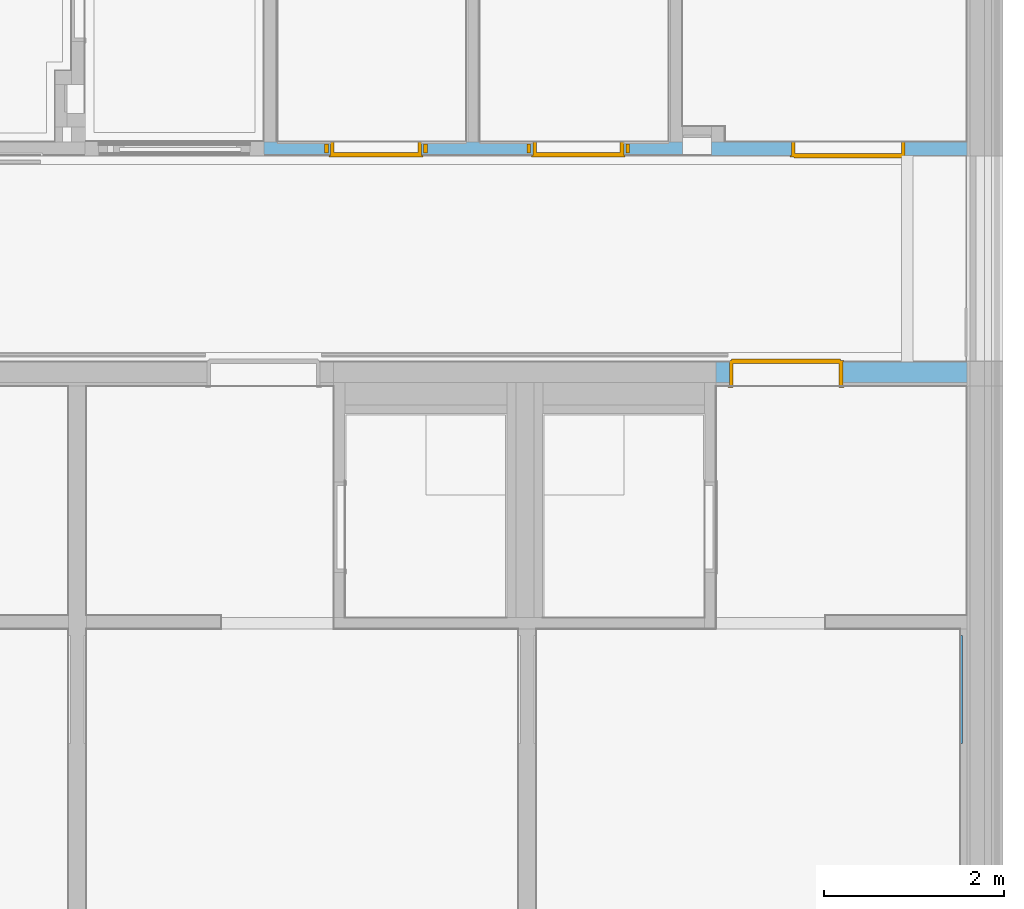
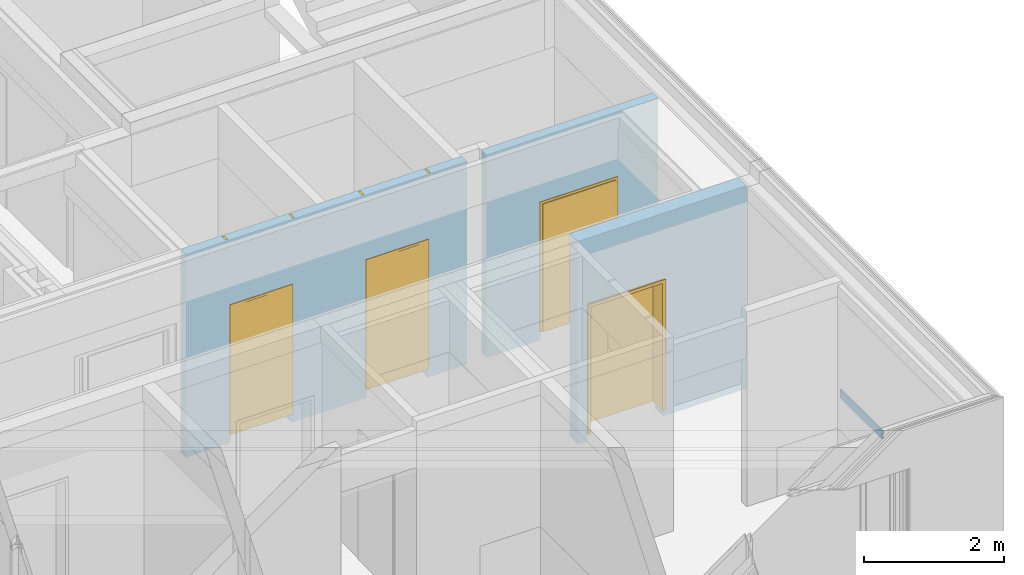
# One storey, part 133 of 222: 4 doors, 1 wall, 4 openings, plus 3 elements that do not belong to this part.
"""IFC4 building model written with IfcOpenShell, lengths in metres."""

from ifc_helpers import new_model, entity, si_unit, converted_unit, derived_unit, frame, frame_2d, origin, origin_with_axes, place, context, subcontext, project, spatial, polyline, rectangle, outline, extrude, faceted_brep, source, transform, mapped, material, type_object, element, fill, save


model = new_model("IFC4")

# Units and contexts
model_context = context("Model", 3, precision=1e-05, world=origin())
body_context = subcontext(model_context, "Body", "Model", "MODEL_VIEW")
ifc_project = project(units=[si_unit("LENGTHUNIT", "METRE"), si_unit("AREAUNIT", "SQUARE_METRE"), si_unit("VOLUMEUNIT", "CUBIC_METRE"), si_unit("MASSUNIT", "GRAM", prefix="KILO"), converted_unit("PLANEANGLEUNIT", "DEGREE", entity("IfcPlaneAngleMeasure", 0.0174532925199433), si_unit("PLANEANGLEUNIT", "RADIAN"), dimensions=[0, 0, 0, 0, 0, 0, 0]), derived_unit("THERMALTRANSMITTANCEUNIT", [(si_unit("POWERUNIT", "WATT"), 1), (si_unit("THERMODYNAMICTEMPERATUREUNIT", "KELVIN"), -1), (si_unit("LENGTHUNIT", "METRE"), -2)]), derived_unit("VOLUMETRICFLOWRATEUNIT", [(si_unit("LENGTHUNIT", "METRE"), 3), (converted_unit("TIMEUNIT", "hour", entity("IfcTimeMeasure", 3600.0), si_unit("TIMEUNIT", "SECOND"), dimensions=[0, 0, 1, 0, 0, 0, 0]), -1), (si_unit("LENGTHUNIT", "METRE"), -1)])], contexts=[model_context])

# Site, building, storey
site_placement = place(None, origin())
site = spatial("IfcSite", under=ifc_project, at=site_placement, Name="Psychiatrie Neubau Wunstorf", CompositionType="ELEMENT")
building_placement = place(site_placement, origin())
building = spatial("IfcBuilding", under=site, at=building_placement, Name="Neubau H2 Stationsgebäude", CompositionType="ELEMENT")
storey_placement = place(building_placement, frame((0.0, 0.0, 3.6)))
storey = spatial("IfcBuildingStorey", under=building, at=storey_placement, Name="H2 Ebene +1", CompositionType="ELEMENT", Elevation=3.6)

# Wall, openings, doors
ifc_material_1 = material(Name="WI-LB")
wall_1_placement = place(storey_placement, frame((98.075, 7.6249998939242, 0.0), z_axis=(0.0, 0.0, 1.0), x_axis=(1.0, -1.95590258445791e-16, 0.0)))
wall_1 = element("IfcWall", 1, at=wall_1_placement, inside=storey, material=ifc_material_1, context=body_context, shape_type="SweptSolid", body=[
    extrude(rectangle(XDim=4.65, YDim=0.15, at=frame_2d((2.325, 0.075), x_axis=(1.0, 0.0))), origin_with_axes(), (0.0, 0.0, 1.0), 3.55),
])
opening_1_placement = place(wall_1_placement, frame((1.75, 0.15, 0.0), z_axis=(0.0, -1.0, 0.0), x_axis=(0.0, 0.0, 1.0)))
opening_1 = element("IfcOpeningElement", 2, at=opening_1_placement, cuts=wall_1, Name="Türöffnung", ObjectType="Opening", context=body_context, shape_type="SweptSolid", body=[
    extrude(outline(polyline([(2.41, 1.01), (2.41, 0.0), (0.0, 0.0), (0.0, 1.01), (2.41, 1.01)])), origin_with_axes(), (0.0, 0.0, 1.0), 0.15),
])
opening_2_placement = place(wall_1_placement, frame((4.0, 0.150000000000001, 0.0), z_axis=(0.0, -1.0, 0.0), x_axis=(0.0, 0.0, 1.0)))
opening_2 = element("IfcOpeningElement", 3, at=opening_2_placement, cuts=wall_1, Name="Türöffnung", ObjectType="Opening", context=body_context, shape_type="SweptSolid", body=[
    extrude(outline(polyline([(2.41, 1.01), (2.41, 0.0), (0.0, 0.0), (0.0, 1.01), (2.41, 1.01)])), origin_with_axes(), (0.0, 0.0, 1.0), 0.15),
])
ifc_material_2 = material(Name="TI-1F-UZ-ZK")
door_type_1 = type_object("IfcDoorType", Name="SMT", OperationType="SINGLE_SWING_RIGHT", ParameterTakesPrecedence=False, PredefinedType="DOOR")
shared_shape_1 = source(origin_with_axes(), body_context, "Body", "Brep", [
    faceted_brep([(1.07499999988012, 0.025, 0.0), (1.07499999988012, 0.125, 0.0), (1.0349999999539, 0.125, 0.0), (1.0349999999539, 0.025, 0.0), (1.07499999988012, 0.125, 3.55), (1.07499999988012, 0.025, 3.55), (1.0349999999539, 0.025, 3.55), (1.0349999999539, 0.125, 3.55)], [[[0, 1, 2, 3]], [[4, 5, 6, 7]], [[1, 0, 5, 4]], [[2, 1, 4, 7]], [[3, 2, 7, 6]], [[0, 3, 6, 5]]], orient=[[False], [False], [False], [False], [False], [False]]),
    faceted_brep([(-0.0249999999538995, 0.025, 0.0), (-0.0249999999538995, 0.125, 0.0), (-0.0649999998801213, 0.125, 0.0), (-0.0649999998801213, 0.025, 0.0), (-0.0249999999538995, 0.125, 3.55), (-0.0249999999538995, 0.025, 3.55), (-0.0649999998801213, 0.025, 3.55), (-0.0649999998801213, 0.125, 3.55)], [[[0, 1, 2, 3]], [[4, 5, 6, 7]], [[1, 0, 5, 4]], [[2, 1, 4, 7]], [[3, 2, 7, 6]], [[0, 3, 6, 5]]], orient=[[False], [False], [False], [False], [False], [False]]),
    faceted_brep([(1.0349999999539, 0.025, 2.435), (1.0349999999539, 0.125, 2.435), (-0.0249999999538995, 0.125, 2.435), (-0.0249999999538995, 0.025, 2.435), (1.0349999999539, 0.125, 2.475), (1.0349999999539, 0.025, 2.475), (-0.0249999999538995, 0.025, 2.475), (-0.0249999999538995, 0.125, 2.475)], [[[0, 1, 2, 3]], [[4, 5, 6, 7]], [[1, 0, 5, 4]], [[2, 1, 4, 7]], [[3, 2, 7, 6]], [[0, 3, 6, 5]]], orient=[[False], [False], [False], [False], [False], [False]]),
])
shared_shape_2 = source(origin_with_axes(), body_context, "Body", "Brep", [
    faceted_brep([(0.0, -0.015, 2.41), (0.04, -0.015, 2.41), (0.04, -0.015, 0.15), (0.0, -0.015, 0.15), (0.0, 0.165, 0.15), (0.04, 0.165, 0.15), (0.04, 0.165, 2.41), (0.0, 0.165, 2.41)], [[[0, 1, 2, 3]], [[4, 5, 6, 7]], [[3, 4, 7, 0]], [[2, 5, 4, 3]], [[1, 6, 5, 2]], [[0, 7, 6, 1]]], orient=[[False], [False], [False], [False], [False], [False]]),
    faceted_brep([(0.0, -0.015, 2.425), (0.0, -0.015, 0.15), (-0.015, -0.015, 0.15), (-0.015, -0.015, 2.425), (0.0, 0.0, 0.15), (0.0, 0.0, 2.425), (-0.015, 0.0, 2.425), (-0.015, 0.0, 0.15)], [[[0, 1, 2, 3]], [[4, 5, 6, 7]], [[1, 0, 5, 4]], [[2, 1, 4, 7]], [[3, 2, 7, 6]], [[0, 3, 6, 5]]], orient=[[False], [False], [False], [False], [False], [False]]),
    faceted_brep([(0.0, 0.15, 2.425), (0.0, 0.15, 0.15), (-0.015, 0.15, 0.15), (-0.015, 0.15, 2.425), (0.0, 0.165, 0.15), (0.0, 0.165, 2.425), (-0.015, 0.165, 2.425), (-0.015, 0.165, 0.15)], [[[0, 1, 2, 3]], [[4, 5, 6, 7]], [[1, 0, 5, 4]], [[2, 1, 4, 7]], [[3, 2, 7, 6]], [[0, 3, 6, 5]]], orient=[[False], [False], [False], [False], [False], [False]]),
    faceted_brep([(0.97, -0.0150000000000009, 2.41), (1.01, -0.0150000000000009, 2.41), (1.01, -0.015, 0.15), (0.97, -0.015, 0.15), (0.97, 0.165, 0.15), (1.01, 0.165, 0.15), (1.01, 0.164999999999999, 2.41), (0.97, 0.164999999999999, 2.41)], [[[0, 1, 2, 3]], [[4, 5, 6, 7]], [[3, 4, 7, 0]], [[2, 5, 4, 3]], [[1, 6, 5, 2]], [[0, 7, 6, 1]]], orient=[[False], [False], [False], [False], [False], [False]]),
    faceted_brep([(1.01, -0.0150000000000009, 2.425), (1.025, -0.0150000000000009, 2.425), (1.025, -0.015, 0.15), (1.01, -0.015, 0.15), (1.01, 0.0, 0.15), (1.025, 0.0, 0.15), (1.025, 0.0, 2.425), (1.01, 0.0, 2.425)], [[[0, 1, 2, 3]], [[4, 5, 6, 7]], [[3, 4, 7, 0]], [[2, 5, 4, 3]], [[1, 6, 5, 2]], [[0, 7, 6, 1]]], orient=[[False], [False], [False], [False], [False], [False]]),
    faceted_brep([(1.01, 0.149999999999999, 2.425), (1.025, 0.149999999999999, 2.425), (1.025, 0.15, 0.15), (1.01, 0.15, 0.15), (1.01, 0.165, 0.15), (1.025, 0.165, 0.15), (1.025, 0.164999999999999, 2.425), (1.01, 0.164999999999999, 2.425)], [[[0, 1, 2, 3]], [[4, 5, 6, 7]], [[3, 4, 7, 0]], [[2, 5, 4, 3]], [[1, 6, 5, 2]], [[0, 7, 6, 1]]], orient=[[False], [False], [False], [False], [False], [False]]),
    faceted_brep([(0.04, -0.015, 2.41), (0.97, -0.0150000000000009, 2.41), (0.97, -0.0150000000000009, 2.37), (0.04, -0.015, 2.37), (0.04, 0.165, 2.37), (0.97, 0.164999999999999, 2.37), (0.97, 0.164999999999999, 2.41), (0.04, 0.165, 2.41)], [[[0, 1, 2, 3]], [[4, 5, 6, 7]], [[3, 4, 7, 0]], [[2, 5, 4, 3]], [[1, 6, 5, 2]], [[0, 7, 6, 1]]], orient=[[False], [False], [False], [False], [False], [False]]),
    faceted_brep([(0.0, -0.015, 2.425), (1.01, -0.0150000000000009, 2.425), (1.01, -0.0150000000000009, 2.41), (0.0, -0.015, 2.41), (0.0, 0.0, 2.41), (1.01, 0.0, 2.41), (1.01, 0.0, 2.425), (0.0, 0.0, 2.425)], [[[0, 1, 2, 3]], [[4, 5, 6, 7]], [[3, 4, 7, 0]], [[2, 5, 4, 3]], [[1, 6, 5, 2]], [[0, 7, 6, 1]]], orient=[[False], [False], [False], [False], [False], [False]]),
    faceted_brep([(0.0, 0.15, 2.425), (1.01, 0.149999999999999, 2.425), (1.01, 0.149999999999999, 2.41), (0.0, 0.15, 2.41), (0.0, 0.165, 2.41), (1.01, 0.164999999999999, 2.41), (1.01, 0.164999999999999, 2.425), (0.0, 0.165, 2.425)], [[[0, 1, 2, 3]], [[4, 5, 6, 7]], [[3, 4, 7, 0]], [[2, 5, 4, 3]], [[1, 6, 5, 2]], [[0, 7, 6, 1]]], orient=[[False], [False], [False], [False], [False], [False]]),
    faceted_brep([(0.025, 0.116, 2.385), (0.985, 0.115999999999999, 2.385), (0.985, 0.116, 0.15), (0.025, 0.116, 0.15), (0.025, 0.166, 0.15), (0.985, 0.166, 0.15), (0.985, 0.165999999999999, 2.385), (0.025, 0.166, 2.385)], [[[0, 1, 2, 3]], [[4, 5, 6, 7]], [[3, 4, 7, 0]], [[2, 5, 4, 3]], [[1, 6, 5, 2]], [[0, 7, 6, 1]]], orient=[[False], [False], [False], [False], [False], [False]]),
])
door_1_placement = place(opening_1_placement, frame((0.0, 0.0, 0.0), z_axis=(1.0, 0.0, 0.0), x_axis=(0.0, 1.0, 1.95590258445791e-16)))
door_1 = element("IfcDoor", 4, at=door_1_placement, inside=storey, type_object=door_type_1, material=ifc_material_2, Name="SMT", OverallHeight=2.41, OverallWidth=1.01, context=body_context, shape_type="MappedRepresentation", body=[
    mapped(shared_shape_1, transform((0.0, 0.0, 0.0), x_axis=(1.0, 0.0, 0.0), y_axis=(0.0, 1.0, 0.0), z_axis=(0.0, 0.0, 1.0), scale=1.0)),
    mapped(shared_shape_2, transform((0.0, 0.0, 0.0), x_axis=(1.0, 0.0, 0.0), y_axis=(0.0, 1.0, 0.0), z_axis=(0.0, 0.0, 1.0), scale=1.0)),
])
fill(opening_1, door_1)
ifc_material_3 = material(Name="TI-1F-UZ-ZK")
door_type_2 = type_object("IfcDoorType", Name="SMT", OperationType="SINGLE_SWING_RIGHT", ParameterTakesPrecedence=False, PredefinedType="DOOR")
shared_shape_3 = source(origin_with_axes(), body_context, "Body", "Brep", [
    faceted_brep([(-0.0649999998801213, 0.025, 0.0), (-0.0249999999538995, 0.025, 0.0), (-0.0249999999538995, 0.125, 0.0), (-0.0649999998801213, 0.125, 0.0), (-0.0649999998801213, 0.125, 3.55), (-0.0249999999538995, 0.125, 3.55), (-0.0249999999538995, 0.025, 3.55), (-0.0649999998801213, 0.025, 3.55)], [[[0, 1, 2, 3]], [[4, 5, 6, 7]], [[3, 4, 7, 0]], [[2, 5, 4, 3]], [[1, 6, 5, 2]], [[0, 7, 6, 1]]], orient=[[False], [False], [False], [False], [False], [False]]),
    faceted_brep([(1.0349999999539, 0.025, 0.0), (1.07499999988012, 0.025, 0.0), (1.07499999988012, 0.125, 0.0), (1.0349999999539, 0.125, 0.0), (1.0349999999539, 0.125, 3.55), (1.07499999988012, 0.125, 3.55), (1.07499999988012, 0.025, 3.55), (1.0349999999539, 0.025, 3.55)], [[[0, 1, 2, 3]], [[4, 5, 6, 7]], [[3, 4, 7, 0]], [[2, 5, 4, 3]], [[1, 6, 5, 2]], [[0, 7, 6, 1]]], orient=[[False], [False], [False], [False], [False], [False]]),
    faceted_brep([(-0.0249999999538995, 0.025, 2.435), (1.0349999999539, 0.025, 2.435), (1.0349999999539, 0.125, 2.435), (-0.0249999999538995, 0.125, 2.435), (-0.0249999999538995, 0.125, 2.475), (1.0349999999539, 0.125, 2.475), (1.0349999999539, 0.025, 2.475), (-0.0249999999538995, 0.025, 2.475)], [[[0, 1, 2, 3]], [[4, 5, 6, 7]], [[3, 4, 7, 0]], [[2, 5, 4, 3]], [[1, 6, 5, 2]], [[0, 7, 6, 1]]], orient=[[False], [False], [False], [False], [False], [False]]),
])
shared_shape_4 = source(origin_with_axes(), body_context, "Body", "Brep", [
    faceted_brep([(0.0, -0.015, 2.41), (0.04, -0.015, 2.41), (0.04, -0.015, 0.15), (0.0, -0.015, 0.15), (0.0, 0.165, 0.15), (0.04, 0.165, 0.15), (0.04, 0.165, 2.41), (0.0, 0.165, 2.41)], [[[0, 1, 2, 3]], [[4, 5, 6, 7]], [[3, 4, 7, 0]], [[2, 5, 4, 3]], [[1, 6, 5, 2]], [[0, 7, 6, 1]]], orient=[[False], [False], [False], [False], [False], [False]]),
    faceted_brep([(0.0, -0.015, 2.425), (0.0, -0.015, 0.15), (-0.015, -0.015, 0.15), (-0.015, -0.015, 2.425), (0.0, 0.0, 0.15), (0.0, 0.0, 2.425), (-0.015, 0.0, 2.425), (-0.015, 0.0, 0.15)], [[[0, 1, 2, 3]], [[4, 5, 6, 7]], [[1, 0, 5, 4]], [[2, 1, 4, 7]], [[3, 2, 7, 6]], [[0, 3, 6, 5]]], orient=[[False], [False], [False], [False], [False], [False]]),
    faceted_brep([(0.0, 0.15, 2.425), (0.0, 0.15, 0.15), (-0.015, 0.15, 0.15), (-0.015, 0.15, 2.425), (0.0, 0.165, 0.15), (0.0, 0.165, 2.425), (-0.015, 0.165, 2.425), (-0.015, 0.165, 0.15)], [[[0, 1, 2, 3]], [[4, 5, 6, 7]], [[1, 0, 5, 4]], [[2, 1, 4, 7]], [[3, 2, 7, 6]], [[0, 3, 6, 5]]], orient=[[False], [False], [False], [False], [False], [False]]),
    faceted_brep([(0.97, -0.0150000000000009, 2.41), (1.01, -0.0150000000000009, 2.41), (1.01, -0.015, 0.15), (0.97, -0.015, 0.15), (0.97, 0.165, 0.15), (1.01, 0.165, 0.15), (1.01, 0.164999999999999, 2.41), (0.97, 0.164999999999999, 2.41)], [[[0, 1, 2, 3]], [[4, 5, 6, 7]], [[3, 4, 7, 0]], [[2, 5, 4, 3]], [[1, 6, 5, 2]], [[0, 7, 6, 1]]], orient=[[False], [False], [False], [False], [False], [False]]),
    faceted_brep([(1.01, -0.0150000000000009, 2.425), (1.025, -0.0150000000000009, 2.425), (1.025, -0.015, 0.15), (1.01, -0.015, 0.15), (1.01, 0.0, 0.15), (1.025, 0.0, 0.15), (1.025, 0.0, 2.425), (1.01, 0.0, 2.425)], [[[0, 1, 2, 3]], [[4, 5, 6, 7]], [[3, 4, 7, 0]], [[2, 5, 4, 3]], [[1, 6, 5, 2]], [[0, 7, 6, 1]]], orient=[[False], [False], [False], [False], [False], [False]]),
    faceted_brep([(1.01, 0.149999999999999, 2.425), (1.025, 0.149999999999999, 2.425), (1.025, 0.15, 0.15), (1.01, 0.15, 0.15), (1.01, 0.165, 0.15), (1.025, 0.165, 0.15), (1.025, 0.164999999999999, 2.425), (1.01, 0.164999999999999, 2.425)], [[[0, 1, 2, 3]], [[4, 5, 6, 7]], [[3, 4, 7, 0]], [[2, 5, 4, 3]], [[1, 6, 5, 2]], [[0, 7, 6, 1]]], orient=[[False], [False], [False], [False], [False], [False]]),
    faceted_brep([(0.04, -0.015, 2.41), (0.97, -0.0150000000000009, 2.41), (0.97, -0.0150000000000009, 2.37), (0.04, -0.015, 2.37), (0.04, 0.165, 2.37), (0.97, 0.164999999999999, 2.37), (0.97, 0.164999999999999, 2.41), (0.04, 0.165, 2.41)], [[[0, 1, 2, 3]], [[4, 5, 6, 7]], [[3, 4, 7, 0]], [[2, 5, 4, 3]], [[1, 6, 5, 2]], [[0, 7, 6, 1]]], orient=[[False], [False], [False], [False], [False], [False]]),
    faceted_brep([(0.0, -0.015, 2.425), (1.01, -0.0150000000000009, 2.425), (1.01, -0.0150000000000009, 2.41), (0.0, -0.015, 2.41), (0.0, 0.0, 2.41), (1.01, 0.0, 2.41), (1.01, 0.0, 2.425), (0.0, 0.0, 2.425)], [[[0, 1, 2, 3]], [[4, 5, 6, 7]], [[3, 4, 7, 0]], [[2, 5, 4, 3]], [[1, 6, 5, 2]], [[0, 7, 6, 1]]], orient=[[False], [False], [False], [False], [False], [False]]),
    faceted_brep([(0.0, 0.15, 2.425), (1.01, 0.149999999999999, 2.425), (1.01, 0.149999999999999, 2.41), (0.0, 0.15, 2.41), (0.0, 0.165, 2.41), (1.01, 0.164999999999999, 2.41), (1.01, 0.164999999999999, 2.425), (0.0, 0.165, 2.425)], [[[0, 1, 2, 3]], [[4, 5, 6, 7]], [[3, 4, 7, 0]], [[2, 5, 4, 3]], [[1, 6, 5, 2]], [[0, 7, 6, 1]]], orient=[[False], [False], [False], [False], [False], [False]]),
    faceted_brep([(0.025, 0.116, 2.385), (0.985, 0.115999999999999, 2.385), (0.985, 0.116, 0.15), (0.025, 0.116, 0.15), (0.025, 0.166, 0.15), (0.985, 0.166, 0.15), (0.985, 0.165999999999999, 2.385), (0.025, 0.166, 2.385)], [[[0, 1, 2, 3]], [[4, 5, 6, 7]], [[3, 4, 7, 0]], [[2, 5, 4, 3]], [[1, 6, 5, 2]], [[0, 7, 6, 1]]], orient=[[False], [False], [False], [False], [False], [False]]),
])
door_2_placement = place(opening_2_placement, frame((0.0, 0.0, 0.0), z_axis=(1.0, 0.0, 0.0), x_axis=(0.0, 1.0, 1.95590258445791e-16)))
door_2 = element("IfcDoor", 5, at=door_2_placement, inside=storey, type_object=door_type_2, material=ifc_material_3, Name="SMT", OverallHeight=2.41, OverallWidth=1.01, context=body_context, shape_type="MappedRepresentation", body=[
    mapped(shared_shape_3, transform((0.0, 0.0, 0.0), x_axis=(1.0, 0.0, 0.0), y_axis=(0.0, 1.0, 0.0), z_axis=(0.0, 0.0, 1.0), scale=1.0)),
    mapped(shared_shape_4, transform((0.0, 0.0, 0.0), x_axis=(1.0, 0.0, 0.0), y_axis=(0.0, 1.0, 0.0), z_axis=(0.0, 0.0, 1.0), scale=1.0)),
])
fill(opening_2, door_2)

# Wall, opening, door
ifc_material_4 = material(Name="WI-LB")
wall_2_placement = place(storey_placement, frame((103.05, 7.6249998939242, 0.0)))
wall_2 = element("IfcWall", 6, at=wall_2_placement, inside=storey, material=ifc_material_4, context=body_context, shape_type="SweptSolid", body=[
    extrude(rectangle(XDim=2.83899999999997, YDim=0.15, at=frame_2d((1.41949999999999, 0.075), x_axis=(1.0, 0.0))), origin_with_axes(), (0.0, 0.0, 1.0), 3.55),
])
opening_3_placement = place(wall_2_placement, frame((2.14999999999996, 0.15, 0.0), z_axis=(0.0, -1.0, 0.0), x_axis=(0.0, 0.0, 1.0)))
opening_3 = element("IfcOpeningElement", 7, at=opening_3_placement, cuts=wall_2, Name="Türöffnung", ObjectType="Opening", context=body_context, shape_type="SweptSolid", body=[
    extrude(outline(polyline([(2.41, 1.26), (2.41, 0.0), (0.0, 0.0), (0.0, 1.26), (2.41, 1.26)])), origin_with_axes(), (0.0, 0.0, 1.0), 0.15),
])
ifc_material_5 = material(Name="TI-2F-UZ-D")
door_type_3 = type_object("IfcDoorType", Name="SMT", OperationType="DOUBLE_DOOR_SINGLE_SWING", ParameterTakesPrecedence=False, PredefinedType="DOOR")
shared_shape_5 = source(origin_with_axes(), body_context, "Body", "Brep", [
    faceted_brep([(1.36, 0.025, 0.0), (1.36, 0.125, 0.0), (1.26, 0.125, 0.0), (1.26, 0.025, 0.0), (1.36, 0.125, 3.55), (1.36, 0.025, 3.55), (1.26, 0.025, 3.55), (1.26, 0.125, 3.55)], [[[0, 1, 2, 3]], [[4, 5, 6, 7]], [[1, 0, 5, 4]], [[2, 1, 4, 7]], [[3, 2, 7, 6]], [[0, 3, 6, 5]]], orient=[[False], [False], [False], [False], [False], [False]]),
    faceted_brep([(0.0, 0.025, 0.0), (0.0, 0.125, 0.0), (-0.1, 0.125, 0.0), (-0.1, 0.025, 0.0), (0.0, 0.125, 3.55), (0.0, 0.025, 3.55), (-0.1, 0.025, 3.55), (-0.1, 0.125, 3.55)], [[[0, 1, 2, 3]], [[4, 5, 6, 7]], [[1, 0, 5, 4]], [[2, 1, 4, 7]], [[3, 2, 7, 6]], [[0, 3, 6, 5]]], orient=[[False], [False], [False], [False], [False], [False]]),
    faceted_brep([(1.26, 0.025, 2.41), (1.26, 0.125, 2.41), (0.0, 0.125, 2.41), (0.0, 0.025, 2.41), (1.26, 0.125, 2.51), (1.26, 0.025, 2.51), (0.0, 0.025, 2.51), (0.0, 0.125, 2.51)], [[[0, 1, 2, 3]], [[4, 5, 6, 7]], [[1, 0, 5, 4]], [[2, 1, 4, 7]], [[3, 2, 7, 6]], [[0, 3, 6, 5]]], orient=[[False], [False], [False], [False], [False], [False]]),
])
shared_shape_6 = source(origin_with_axes(), body_context, "Body", "Brep", [
    faceted_brep([(0.0, -0.015, 2.41), (0.04, -0.015, 2.41), (0.04, -0.015, 0.15), (0.0, -0.015, 0.15), (0.0, 0.165, 0.15), (0.04, 0.165, 0.15), (0.04, 0.165, 2.41), (0.0, 0.165, 2.41)], [[[0, 1, 2, 3]], [[4, 5, 6, 7]], [[3, 4, 7, 0]], [[2, 5, 4, 3]], [[1, 6, 5, 2]], [[0, 7, 6, 1]]], orient=[[False], [False], [False], [False], [False], [False]]),
    faceted_brep([(0.0, -0.015, 2.425), (0.0, -0.015, 0.15), (-0.015, -0.015, 0.15), (-0.015, -0.015, 2.425), (0.0, 0.0, 0.15), (0.0, 0.0, 2.425), (-0.015, 0.0, 2.425), (-0.015, 0.0, 0.15)], [[[0, 1, 2, 3]], [[4, 5, 6, 7]], [[1, 0, 5, 4]], [[2, 1, 4, 7]], [[3, 2, 7, 6]], [[0, 3, 6, 5]]], orient=[[False], [False], [False], [False], [False], [False]]),
    faceted_brep([(0.0, 0.15, 2.425), (0.0, 0.15, 0.15), (-0.015, 0.15, 0.15), (-0.015, 0.15, 2.425), (0.0, 0.165, 0.15), (0.0, 0.165, 2.425), (-0.015, 0.165, 2.425), (-0.015, 0.165, 0.15)], [[[0, 1, 2, 3]], [[4, 5, 6, 7]], [[1, 0, 5, 4]], [[2, 1, 4, 7]], [[3, 2, 7, 6]], [[0, 3, 6, 5]]], orient=[[False], [False], [False], [False], [False], [False]]),
    faceted_brep([(1.22, -0.0150000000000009, 2.41), (1.26, -0.0150000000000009, 2.41), (1.26, -0.015, 0.15), (1.22, -0.015, 0.15), (1.22, 0.165, 0.15), (1.26, 0.165, 0.15), (1.26, 0.164999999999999, 2.41), (1.22, 0.164999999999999, 2.41)], [[[0, 1, 2, 3]], [[4, 5, 6, 7]], [[3, 4, 7, 0]], [[2, 5, 4, 3]], [[1, 6, 5, 2]], [[0, 7, 6, 1]]], orient=[[False], [False], [False], [False], [False], [False]]),
    faceted_brep([(1.26, -0.0150000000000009, 2.425), (1.275, -0.0150000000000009, 2.425), (1.275, -0.015, 0.15), (1.26, -0.015, 0.15), (1.26, 0.0, 0.15), (1.275, 0.0, 0.15), (1.275, 0.0, 2.425), (1.26, 0.0, 2.425)], [[[0, 1, 2, 3]], [[4, 5, 6, 7]], [[3, 4, 7, 0]], [[2, 5, 4, 3]], [[1, 6, 5, 2]], [[0, 7, 6, 1]]], orient=[[False], [False], [False], [False], [False], [False]]),
    faceted_brep([(1.26, 0.149999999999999, 2.425), (1.275, 0.149999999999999, 2.425), (1.275, 0.15, 0.15), (1.26, 0.15, 0.15), (1.26, 0.165, 0.15), (1.275, 0.165, 0.15), (1.275, 0.164999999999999, 2.425), (1.26, 0.164999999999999, 2.425)], [[[0, 1, 2, 3]], [[4, 5, 6, 7]], [[3, 4, 7, 0]], [[2, 5, 4, 3]], [[1, 6, 5, 2]], [[0, 7, 6, 1]]], orient=[[False], [False], [False], [False], [False], [False]]),
    faceted_brep([(0.04, -0.015, 2.41), (1.22, -0.0150000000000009, 2.41), (1.22, -0.0150000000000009, 2.37), (0.04, -0.015, 2.37), (0.04, 0.165, 2.37), (1.22, 0.164999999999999, 2.37), (1.22, 0.164999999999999, 2.41), (0.04, 0.165, 2.41)], [[[0, 1, 2, 3]], [[4, 5, 6, 7]], [[3, 4, 7, 0]], [[2, 5, 4, 3]], [[1, 6, 5, 2]], [[0, 7, 6, 1]]], orient=[[False], [False], [False], [False], [False], [False]]),
    faceted_brep([(0.0, -0.015, 2.425), (1.26, -0.0150000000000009, 2.425), (1.26, -0.0150000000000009, 2.41), (0.0, -0.015, 2.41), (0.0, 0.0, 2.41), (1.26, 0.0, 2.41), (1.26, 0.0, 2.425), (0.0, 0.0, 2.425)], [[[0, 1, 2, 3]], [[4, 5, 6, 7]], [[3, 4, 7, 0]], [[2, 5, 4, 3]], [[1, 6, 5, 2]], [[0, 7, 6, 1]]], orient=[[False], [False], [False], [False], [False], [False]]),
    faceted_brep([(0.0, 0.15, 2.425), (1.26, 0.149999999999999, 2.425), (1.26, 0.149999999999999, 2.41), (0.0, 0.15, 2.41), (0.0, 0.165, 2.41), (1.26, 0.164999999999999, 2.41), (1.26, 0.164999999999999, 2.425), (0.0, 0.165, 2.425)], [[[0, 1, 2, 3]], [[4, 5, 6, 7]], [[3, 4, 7, 0]], [[2, 5, 4, 3]], [[1, 6, 5, 2]], [[0, 7, 6, 1]]], orient=[[False], [False], [False], [False], [False], [False]]),
    faceted_brep([(0.025, 0.13, 2.385), (0.925, 0.129999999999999, 2.385), (0.925, 0.13, 0.15), (0.025, 0.13, 0.15), (0.025, 0.18, 0.15), (0.925, 0.18, 0.15), (0.925, 0.179999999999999, 2.385), (0.025, 0.18, 2.385)], [[[0, 1, 2, 3]], [[4, 5, 6, 7]], [[3, 4, 7, 0]], [[2, 5, 4, 3]], [[1, 6, 5, 2]], [[0, 7, 6, 1]]], orient=[[False], [False], [False], [False], [False], [False]]),
    faceted_brep([(0.926, 0.129999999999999, 2.385), (1.235, 0.129999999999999, 2.385), (1.235, 0.13, 0.15), (0.926, 0.13, 0.15), (0.926, 0.18, 0.15), (1.235, 0.18, 0.15), (1.235, 0.179999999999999, 2.385), (0.926, 0.179999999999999, 2.385)], [[[0, 1, 2, 3]], [[4, 5, 6, 7]], [[3, 4, 7, 0]], [[2, 5, 4, 3]], [[1, 6, 5, 2]], [[0, 7, 6, 1]]], orient=[[False], [False], [False], [False], [False], [False]]),
])
door_3_placement = place(opening_3_placement, frame((0.0, 0.0, 0.0), z_axis=(1.0, 0.0, 0.0), x_axis=(0.0, 1.0, 0.0)))
door_3 = element("IfcDoor", 8, at=door_3_placement, inside=storey, type_object=door_type_3, material=ifc_material_5, Name="SMT", OverallHeight=2.41, OverallWidth=1.26, context=body_context, shape_type="MappedRepresentation", body=[
    mapped(shared_shape_5, transform((0.0, 0.0, 0.0), x_axis=(1.0, 0.0, 0.0), y_axis=(0.0, 1.0, 0.0), z_axis=(0.0, 0.0, 1.0), scale=1.0)),
    mapped(shared_shape_6, transform((0.0, 0.0, 0.0), x_axis=(1.0, 0.0, 0.0), y_axis=(0.0, 1.0, 0.0), z_axis=(0.0, 0.0, 1.0), scale=1.0)),
])
fill(opening_3, door_3)

ifc_material_6 = material(Name="WI-HW 60")
wall_3_placement = place(storey_placement, frame((105.889, 5.33250000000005, 0.0), z_axis=(0.0, 0.0, 1.0), x_axis=(-1.0, 0.0, 0.0)))
wall_3 = element("IfcWall", 9, at=wall_3_placement, inside=storey, material=ifc_material_6, context=body_context, shape_type="SweptSolid", body=[
    extrude(rectangle(XDim=2.789, YDim=0.232, at=frame_2d((1.3945, 0.116), x_axis=(1.0, 0.0))), origin_with_axes(), (0.0, 0.0, 1.0), 3.55),
])
opening_4_placement = place(wall_3_placement, frame((1.379, 0.0, 0.0), z_axis=(0.0, 1.0, 0.0), x_axis=(0.0, 0.0, 1.0)))
opening_4 = element("IfcOpeningElement", 10, at=opening_4_placement, cuts=wall_3, Name="Türöffnung", ObjectType="Opening", context=body_context, shape_type="SweptSolid", body=[
    extrude(outline(polyline([(2.41, 1.26), (2.41, 0.0), (0.0, 0.0), (0.0, 1.26), (2.41, 1.26)])), origin_with_axes(), (0.0, 0.0, 1.0), 0.232),
])
ifc_material_7 = material(Name="TI-2F-UZ-D")
door_type_4 = type_object("IfcDoorType", Name="SMT", OperationType="DOUBLE_DOOR_SINGLE_SWING", ParameterTakesPrecedence=False, PredefinedType="DOOR")
shared_shape_7 = source(origin_with_axes(), body_context, "Body", "Brep", [
    faceted_brep([(1.26, -0.015, 2.41), (1.26, -0.015, 0.15), (1.22, -0.015, 0.15), (1.22, -0.015, 2.41), (1.26, 0.287, 0.15), (1.26, 0.287, 2.41), (1.22, 0.287, 2.41), (1.22, 0.287, 0.15)], [[[0, 1, 2, 3]], [[4, 5, 6, 7]], [[1, 0, 5, 4]], [[2, 1, 4, 7]], [[3, 2, 7, 6]], [[0, 3, 6, 5]]], orient=[[False], [False], [False], [False], [False], [False]]),
    faceted_brep([(1.26, -0.015, 2.425), (1.275, -0.015, 2.425), (1.275, -0.015, 0.15), (1.26, -0.015, 0.15), (1.26, 0.0, 0.15), (1.275, 0.0, 0.15), (1.275, 0.0, 2.425), (1.26, 0.0, 2.425)], [[[0, 1, 2, 3]], [[4, 5, 6, 7]], [[3, 4, 7, 0]], [[2, 5, 4, 3]], [[1, 6, 5, 2]], [[0, 7, 6, 1]]], orient=[[False], [False], [False], [False], [False], [False]]),
    faceted_brep([(1.26, 0.272, 2.425), (1.275, 0.272, 2.425), (1.275, 0.272, 0.15), (1.26, 0.272, 0.15), (1.26, 0.287, 0.15), (1.275, 0.287, 0.15), (1.275, 0.287, 2.425), (1.26, 0.287, 2.425)], [[[0, 1, 2, 3]], [[4, 5, 6, 7]], [[3, 4, 7, 0]], [[2, 5, 4, 3]], [[1, 6, 5, 2]], [[0, 7, 6, 1]]], orient=[[False], [False], [False], [False], [False], [False]]),
    faceted_brep([(0.04, -0.015, 2.41), (0.04, -0.015, 0.15), (0.0, -0.015, 0.15), (0.0, -0.015, 2.41), (0.04, 0.287, 0.15), (0.04, 0.287, 2.41), (0.0, 0.287, 2.41), (0.0, 0.287, 0.15)], [[[0, 1, 2, 3]], [[4, 5, 6, 7]], [[1, 0, 5, 4]], [[2, 1, 4, 7]], [[3, 2, 7, 6]], [[0, 3, 6, 5]]], orient=[[False], [False], [False], [False], [False], [False]]),
    faceted_brep([(0.0, -0.015, 2.425), (0.0, -0.015, 0.15), (-0.015, -0.015, 0.15), (-0.015, -0.015, 2.425), (0.0, 0.0, 0.15), (0.0, 0.0, 2.425), (-0.015, 0.0, 2.425), (-0.015, 0.0, 0.15)], [[[0, 1, 2, 3]], [[4, 5, 6, 7]], [[1, 0, 5, 4]], [[2, 1, 4, 7]], [[3, 2, 7, 6]], [[0, 3, 6, 5]]], orient=[[False], [False], [False], [False], [False], [False]]),
    faceted_brep([(0.0, 0.272, 2.425), (0.0, 0.272, 0.15), (-0.015, 0.272, 0.15), (-0.015, 0.272, 2.425), (0.0, 0.287, 0.15), (0.0, 0.287, 2.425), (-0.015, 0.287, 2.425), (-0.015, 0.287, 0.15)], [[[0, 1, 2, 3]], [[4, 5, 6, 7]], [[1, 0, 5, 4]], [[2, 1, 4, 7]], [[3, 2, 7, 6]], [[0, 3, 6, 5]]], orient=[[False], [False], [False], [False], [False], [False]]),
    faceted_brep([(1.22, -0.015, 2.41), (1.22, -0.015, 2.37), (0.04, -0.015, 2.37), (0.04, -0.015, 2.41), (1.22, 0.287, 2.37), (1.22, 0.287, 2.41), (0.04, 0.287, 2.41), (0.04, 0.287, 2.37)], [[[0, 1, 2, 3]], [[4, 5, 6, 7]], [[1, 0, 5, 4]], [[2, 1, 4, 7]], [[3, 2, 7, 6]], [[0, 3, 6, 5]]], orient=[[False], [False], [False], [False], [False], [False]]),
    faceted_brep([(1.26, -0.015, 2.425), (1.26, -0.015, 2.41), (0.0, -0.015, 2.41), (0.0, -0.015, 2.425), (1.26, 0.0, 2.41), (1.26, 0.0, 2.425), (0.0, 0.0, 2.425), (0.0, 0.0, 2.41)], [[[0, 1, 2, 3]], [[4, 5, 6, 7]], [[1, 0, 5, 4]], [[2, 1, 4, 7]], [[3, 2, 7, 6]], [[0, 3, 6, 5]]], orient=[[False], [False], [False], [False], [False], [False]]),
    faceted_brep([(1.26, 0.272, 2.425), (1.26, 0.272, 2.41), (0.0, 0.272, 2.41), (0.0, 0.272, 2.425), (1.26, 0.287, 2.41), (1.26, 0.287, 2.425), (0.0, 0.287, 2.425), (0.0, 0.287, 2.41)], [[[0, 1, 2, 3]], [[4, 5, 6, 7]], [[1, 0, 5, 4]], [[2, 1, 4, 7]], [[3, 2, 7, 6]], [[0, 3, 6, 5]]], orient=[[False], [False], [False], [False], [False], [False]]),
    faceted_brep([(1.235, 0.252, 2.385), (1.235, 0.252, 0.15), (0.335, 0.252, 0.15), (0.335, 0.252, 2.385), (1.235, 0.302, 0.15), (1.235, 0.302, 2.385), (0.335, 0.302, 2.385), (0.335, 0.302, 0.15)], [[[0, 1, 2, 3]], [[4, 5, 6, 7]], [[1, 0, 5, 4]], [[2, 1, 4, 7]], [[3, 2, 7, 6]], [[0, 3, 6, 5]]], orient=[[False], [False], [False], [False], [False], [False]]),
    faceted_brep([(0.334, 0.252, 2.385), (0.334, 0.252, 0.15), (0.025, 0.252, 0.15), (0.025, 0.252, 2.385), (0.334, 0.302, 0.15), (0.334, 0.302, 2.385), (0.025, 0.302, 2.385), (0.025, 0.302, 0.15)], [[[0, 1, 2, 3]], [[4, 5, 6, 7]], [[1, 0, 5, 4]], [[2, 1, 4, 7]], [[3, 2, 7, 6]], [[0, 3, 6, 5]]], orient=[[False], [False], [False], [False], [False], [False]]),
])
door_4_placement = place(opening_4_placement, frame((0.0, 1.26, 0.272), z_axis=(1.0, 0.0, 0.0), x_axis=(0.0, -1.0, 0.0)))
door_4 = element("IfcDoor", 11, at=door_4_placement, inside=storey, type_object=door_type_4, material=ifc_material_7, Name="SMT", OverallHeight=2.41, OverallWidth=1.26, context=body_context, shape_type="MappedRepresentation", body=[
    mapped(shared_shape_7, transform((0.0, 0.0, 0.0), x_axis=(1.0, 0.0, 0.0), y_axis=(0.0, 1.0, 0.0), z_axis=(0.0, 0.0, 1.0), scale=1.0)),
])
fill(opening_4, door_4)

# Wall
wall_4_placement = place(storey_placement, frame((105.814, 1.08720000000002, 1.575)))
element("IfcWall", 12, at=wall_4_placement, inside=storey, Name="WV 1.1", context=body_context, shape_type="Brep", body=[
    faceted_brep([(0.025, 1.2, 0.0), (0.0, 1.2, 0.0), (0.0, 0.0, 0.0), (0.025, 0.0, 0.0), (0.0, 1.2, 0.15), (0.025, 1.2, 0.15), (0.025, 0.0, 0.15), (0.0, 0.0, 0.15)], [[[0, 1, 2, 3]], [[4, 5, 6, 7]], [[1, 0, 5, 4]], [[2, 1, 4, 7]], [[3, 2, 7, 6]], [[0, 3, 6, 5]]], orient=[[False], [False], [False], [False], [False], [False]]),
])

save(model, "model.ifc")
